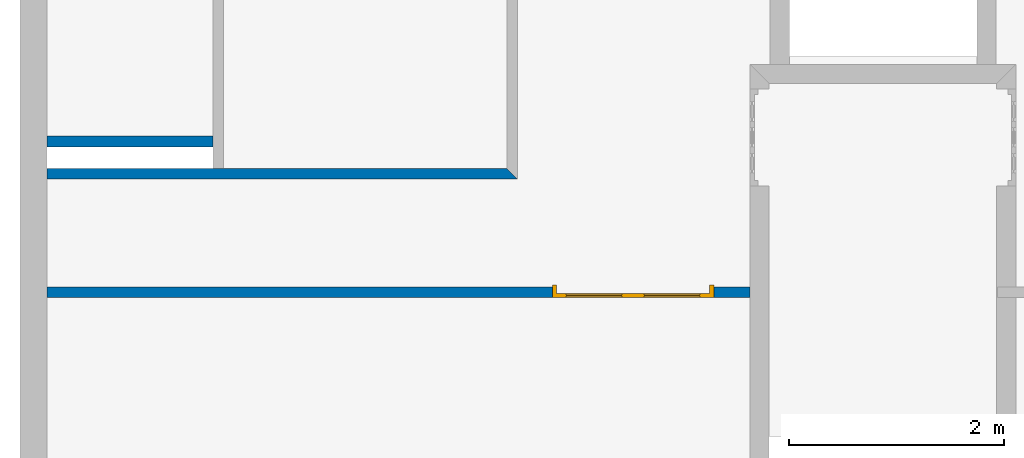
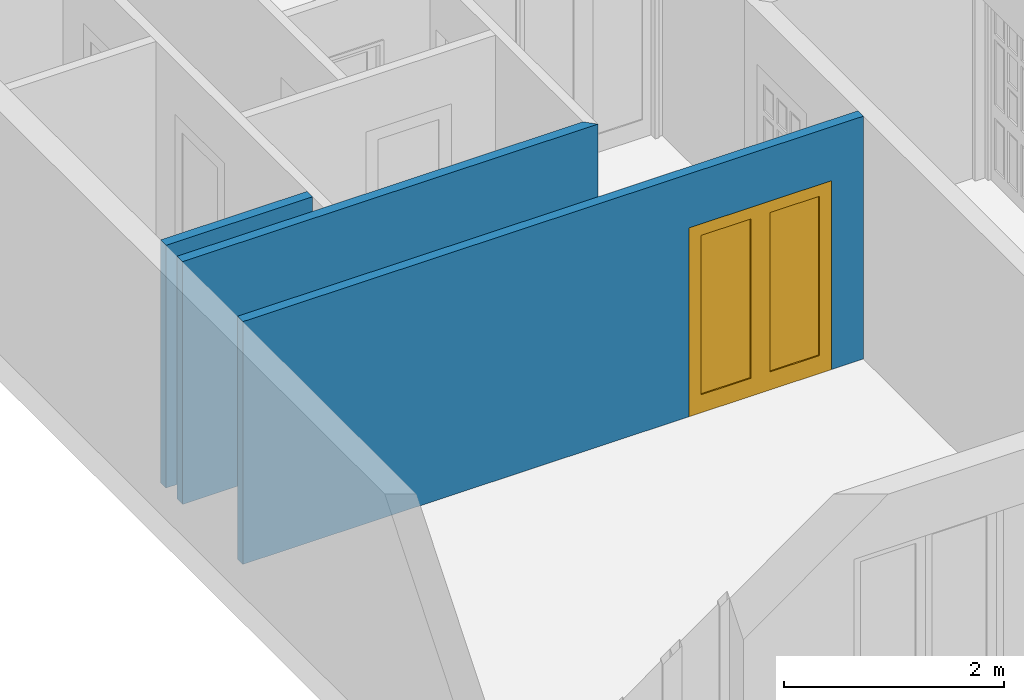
# One storey, part 4 of 11: 3 walls, 1 door, 1 opening.
"""IFC2X3 building model written with IfcOpenShell, lengths in metres."""

from ifc_helpers import new_model, entity, si_unit, converted_unit, direction, frame, frame_2d, origin_with_axes, place, context, project, spatial, polyline, rectangle, outline, extrude, faceted_brep, source, transform, mapped, material, layer, layer_set, layer_usage, type_object, element, fill, save


model = new_model("IFC2X3")

# Units and contexts
context_of_model = context(None, 3, precision=1e-05, world=origin_with_axes(), true_north=direction((6.123234e-17, 1.0)))
plan_context = context("Plan", 3, precision=1e-05, world=origin_with_axes(), true_north=direction((6.123234e-17, 1.0)))
model_context = context("Model", 3, precision=1e-05, world=origin_with_axes(), true_north=direction((6.123234e-17, 1.0)))
ifc_project = project(units=[si_unit("LENGTHUNIT", "METRE"), si_unit("AREAUNIT", "SQUARE_METRE"), si_unit("VOLUMEUNIT", "CUBIC_METRE"), converted_unit("PLANEANGLEUNIT", "DEGREE", entity("IfcPlaneAngleMeasure", 0.017453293), si_unit("PLANEANGLEUNIT", "RADIAN"), dimensions=[0, 0, 0, 0, 0, 0, 0]), si_unit("SOLIDANGLEUNIT", "STERADIAN"), si_unit("MASSUNIT", "GRAM"), si_unit("TIMEUNIT", "SECOND"), si_unit("THERMODYNAMICTEMPERATUREUNIT", "DEGREE_CELSIUS"), si_unit("LUMINOUSINTENSITYUNIT", "LUMEN")], contexts=[context_of_model, plan_context, model_context])

# Site, building, storey
site_placement = place(None, origin_with_axes())
site = spatial("IfcSite", under=ifc_project, at=site_placement, Name="Por defecto Sitio", CompositionType="ELEMENT")
building_placement = place(site_placement, origin_with_axes())
building = spatial("IfcBuilding", under=site, at=building_placement, Name="Por defecto Edificio", CompositionType="ELEMENT")
storey_placement = place(building_placement, frame((0.0, 0.0, 13.2), z_axis=(0.0, 0.0, 1.0), x_axis=(1.0, 0.0, 0.0)))
storey = spatial("IfcBuildingStorey", under=building, at=storey_placement, Name="Cuarta", CompositionType="ELEMENT", Elevation=13.2)

# Walls
ifc_material = material(Name="Ladrillo común")
ifc_layer = layer(ifc_material, 0.1, ventilated="UNKNOWN")
ifc_layer_set = layer_set([ifc_layer], Name="Ladrillo común")
ifc_layer_usage_1 = layer_usage(ifc_layer_set, "AXIS2", "POSITIVE", 0.0)
wall_type = type_object("IfcWallType", Name="Ladrillo común", PredefinedType="NOTDEFINED")
wall_1_placement = place(storey_placement, frame((1.7901975, 6.8112143, 0.0), z_axis=(0.0, 0.0, 1.0), x_axis=(-1.0, -2.919164e-05, 0.0)))
element("IfcWallStandardCase", 1, at=wall_1_placement, inside=storey, type_object=wall_type, material=ifc_layer_usage_1, Name="Muro-021", context=context_of_model, shape_type="SweptSolid", body=[
    extrude(outline(polyline([(-6.6233584e-06, 0.0), (1.5404075, -8.8817842e-16), (1.5404073, 0.1), (-4.5792175e-06, 0.1), (-6.6233584e-06, 0.0)])), origin_with_axes(), (0.0, 0.0, 1.0), 2.7),
])
ifc_layer_usage_2 = layer_usage(ifc_layer_set, "AXIS2", "POSITIVE", 0.0)
wall_2_placement = place(storey_placement, frame((4.52, 6.5112172, 0.0), z_axis=(0.0, 0.0, 1.0), x_axis=(-1.0, -3.0822116e-05, 0.0)))
element("IfcWallStandardCase", 2, at=wall_2_placement, inside=storey, type_object=wall_type, material=ifc_layer_usage_2, Name="Muro-020", context=context_of_model, shape_type="SweptSolid", body=[
    extrude(outline(polyline([(0.0, 0.0), (4.2702007, 0.0), (4.2702007, 0.1), (-0.099998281, 0.1), (0.0, 0.0)])), origin_with_axes(), (0.0, 0.0, 1.0), 2.7),
])

# Wall, opening, door
ifc_layer_usage_3 = layer_usage(ifc_layer_set, "AXIS2", "POSITIVE", 0.0)
wall_3_placement = place(storey_placement, frame((6.9566603, 5.4110174, 0.0), z_axis=(0.0, 0.0, 1.0), x_axis=(-1.0, 0.0, 0.0)))
wall_3 = element("IfcWallStandardCase", 3, at=wall_3_placement, inside=storey, type_object=wall_type, material=ifc_layer_usage_3, Name="Muro-019", context=context_of_model, shape_type="SweptSolid", body=[
    extrude(outline(polyline([(0.18, 0.0), (6.7068271, 0.0), (6.706824, 0.1), (0.18, 0.1), (0.18, 0.0)])), origin_with_axes(), (0.0, 0.0, 1.0), 2.7),
])
opening_placement = place(wall_3_placement, frame((1.2641603, 0.0, 0.0), z_axis=(0.0, 0.0, 1.0), x_axis=(1.0, 0.0, 0.0)))
opening = element("IfcOpeningElement", 4, at=opening_placement, cuts=wall_3, ObjectType="Opening", context=model_context, shape_type="SweptSolid", body=[
    extrude(rectangle(XDim=1.5, YDim=2.1, at=frame_2d((0.0, 1.05), x_axis=(-1.0, 0.0))), frame((0.0, 0.0, 0.0), z_axis=(0.0, 1.0, 0.0), x_axis=(-1.0, 0.0, 0.0)), (0.0, 0.0, 1.0), 0.1),
])
door_style = type_object("IfcDoorStyle", Name="P2 12", ConstructionType="NOTDEFINED", OperationType="DOUBLE_DOOR_SINGLE_SWING", ParameterTakesPrecedence=False, Sizeable=False)
shared_shape = source(origin_with_axes(), model_context, "Body", "Brep", [
    faceted_brep([(0.04, 0.075, 0.0), (0.04, 0.075, 2.06), (0.04, 0.0, 2.06), (0.04, 0.0, 0.0), (0.028, 0.075, 2.06), (0.028, 0.075, 0.0), (0.028, 0.115, 2.06), (0.0, 0.115, 2.06), (0.0, 0.0, 2.06), (0.0, 0.0, 0.0), (0.0, 0.115, 0.0), (0.028, 0.115, 0.0)], [[[0, 1, 2, 3]], [[4, 1, 0, 5]], [[4, 6, 7, 8, 2, 1]], [[9, 3, 2, 8]], [[5, 0, 3, 9, 10, 11]], [[6, 4, 5, 11]], [[6, 11, 10, 7]], [[8, 7, 10, 9]]]),
    faceted_brep([(1.472, 0.075, 2.06), (1.46, 0.075, 2.06), (1.46, 0.0, 2.06), (1.5, 0.0, 2.06), (1.5, 0.115, 2.06), (1.472, 0.115, 2.06), (1.472, 0.075, 0.0), (1.46, 0.075, 0.0), (1.46, 0.0, 0.0), (1.5, 0.0, 0.0), (1.5, 0.115, 0.0), (1.472, 0.115, 0.0)], [[[0, 1, 2, 3, 4, 5]], [[1, 0, 6, 7]], [[1, 7, 8, 2]], [[8, 9, 3, 2]], [[9, 10, 4, 3]], [[11, 5, 4, 10]], [[0, 5, 11, 6]], [[6, 11, 10, 9, 8, 7]]]),
    faceted_brep([(0.028, 0.115, 2.072), (0.028, 0.115, 2.06), (0.0, 0.115, 2.06), (0.0, 0.115, 2.1), (1.5, 0.115, 2.1), (1.5, 0.115, 2.06), (1.472, 0.115, 2.06), (1.472, 0.115, 2.072), (0.028, 0.075, 2.072), (0.028, 0.075, 2.06), (0.04, 0.075, 2.06), (0.04, 0.0, 2.06), (0.0, 0.0, 2.06), (0.0, 0.0, 2.1), (1.5, 0.0, 2.1), (1.5, 0.0, 2.06), (1.472, 0.075, 2.06), (1.46, 0.0, 2.06), (1.46, 0.075, 2.06), (1.472, 0.075, 2.072)], [[[0, 1, 2, 3, 4, 5, 6, 7]], [[1, 0, 8, 9]], [[9, 10, 11, 12, 2, 1]], [[13, 3, 2, 12]], [[14, 4, 3, 13]], [[15, 5, 4, 14]], [[16, 6, 5, 15, 17, 18]], [[7, 6, 16, 19]], [[0, 7, 19, 8]], [[16, 18, 10, 9, 8, 19]], [[10, 18, 17, 11]], [[14, 13, 12, 11, 17, 15]]]),
    faceted_brep([(1.472, 0.115, 0.2), (1.472, 0.075, 0.2), (1.372, 0.075, 0.2), (1.372, 0.115, 0.2), (1.472, 0.115, 1.972), (1.472, 0.075, 1.972), (1.372, 0.075, 1.972), (1.372, 0.115, 1.972)], [[[0, 1, 2, 3]], [[4, 5, 1, 0]], [[1, 5, 6, 2]], [[3, 2, 6, 7]], [[0, 3, 7, 4]], [[7, 6, 5, 4]]]),
    faceted_brep([(0.751, 0.115, 0.2), (0.751, 0.075, 0.2), (0.751, 0.075, 1.972), (0.751, 0.115, 1.972), (0.851, 0.115, 0.2), (0.851, 0.075, 0.2), (0.851, 0.075, 1.972), (0.851, 0.115, 1.972)], [[[0, 1, 2, 3]], [[4, 5, 1, 0]], [[1, 5, 6, 2]], [[3, 2, 6, 7]], [[0, 3, 7, 4]], [[7, 6, 5, 4]]]),
    faceted_brep([(1.472, 0.115, 0.0), (1.472, 0.075, 0.0), (0.751, 0.075, 0.0), (0.751, 0.115, 0.0), (1.472, 0.115, 0.2), (1.472, 0.075, 0.2), (1.372, 0.075, 0.2), (0.851, 0.075, 0.2), (0.751, 0.075, 0.2), (0.751, 0.115, 0.2), (0.851, 0.115, 0.2), (1.372, 0.115, 0.2)], [[[0, 1, 2, 3]], [[4, 5, 1, 0]], [[1, 5, 6, 7, 8, 2]], [[3, 2, 8, 9]], [[0, 3, 9, 10, 11, 4]], [[11, 6, 5, 4]], [[10, 7, 6, 11]], [[9, 8, 7, 10]]]),
    faceted_brep([(1.472, 0.115, 2.072), (1.472, 0.075, 2.072), (1.472, 0.075, 1.972), (1.472, 0.115, 1.972), (0.751, 0.115, 2.072), (0.751, 0.075, 2.072), (0.751, 0.075, 1.972), (0.851, 0.075, 1.972), (1.372, 0.075, 1.972), (1.372, 0.115, 1.972), (0.851, 0.115, 1.972), (0.751, 0.115, 1.972)], [[[0, 1, 2, 3]], [[4, 5, 1, 0]], [[1, 5, 6, 7, 8, 2]], [[3, 2, 8, 9]], [[0, 3, 9, 10, 11, 4]], [[11, 6, 5, 4]], [[10, 7, 6, 11]], [[9, 8, 7, 10]]]),
    faceted_brep([(1.372, 0.101, 0.2), (1.372, 0.089, 0.2), (0.851, 0.089, 0.2), (0.851, 0.101, 0.2), (1.372, 0.101, 1.972), (1.372, 0.089, 1.972), (0.851, 0.089, 1.972), (0.851, 0.101, 1.972)], [[[0, 1, 2, 3]], [[4, 5, 1, 0]], [[1, 5, 6, 2]], [[3, 2, 6, 7]], [[0, 3, 7, 4]], [[7, 6, 5, 4]]]),
    faceted_brep([(0.028, 0.115, 0.2), (0.128, 0.115, 0.2), (0.128, 0.075, 0.2), (0.028, 0.075, 0.2), (0.028, 0.115, 1.972), (0.128, 0.115, 1.972), (0.128, 0.075, 1.972), (0.028, 0.075, 1.972)], [[[0, 1, 2, 3]], [[0, 4, 5, 1]], [[1, 5, 6, 2]], [[3, 2, 6, 7]], [[4, 0, 3, 7]], [[5, 4, 7, 6]]]),
    faceted_brep([(0.749, 0.115, 0.2), (0.749, 0.115, 1.972), (0.749, 0.075, 1.972), (0.749, 0.075, 0.2), (0.649, 0.115, 0.2), (0.649, 0.115, 1.972), (0.649, 0.075, 1.972), (0.649, 0.075, 0.2)], [[[0, 1, 2, 3]], [[0, 4, 5, 1]], [[1, 5, 6, 2]], [[3, 2, 6, 7]], [[4, 0, 3, 7]], [[5, 4, 7, 6]]]),
    faceted_brep([(0.028, 0.115, 0.0), (0.749, 0.115, 0.0), (0.749, 0.075, 0.0), (0.028, 0.075, 0.0), (0.028, 0.115, 0.2), (0.128, 0.115, 0.2), (0.649, 0.115, 0.2), (0.749, 0.115, 0.2), (0.749, 0.075, 0.2), (0.649, 0.075, 0.2), (0.128, 0.075, 0.2), (0.028, 0.075, 0.2)], [[[0, 1, 2, 3]], [[0, 4, 5, 6, 7, 1]], [[1, 7, 8, 2]], [[3, 2, 8, 9, 10, 11]], [[4, 0, 3, 11]], [[5, 4, 11, 10]], [[6, 5, 10, 9]], [[7, 6, 9, 8]]]),
    faceted_brep([(0.028, 0.115, 2.072), (0.028, 0.115, 1.972), (0.028, 0.075, 1.972), (0.028, 0.075, 2.072), (0.749, 0.115, 2.072), (0.749, 0.115, 1.972), (0.649, 0.115, 1.972), (0.128, 0.115, 1.972), (0.128, 0.075, 1.972), (0.649, 0.075, 1.972), (0.749, 0.075, 1.972), (0.749, 0.075, 2.072)], [[[0, 1, 2, 3]], [[0, 4, 5, 6, 7, 1]], [[1, 7, 8, 2]], [[3, 2, 8, 9, 10, 11]], [[4, 0, 3, 11]], [[5, 4, 11, 10]], [[6, 5, 10, 9]], [[7, 6, 9, 8]]]),
    faceted_brep([(0.128, 0.101, 0.2), (0.649, 0.101, 0.2), (0.649, 0.089, 0.2), (0.128, 0.089, 0.2), (0.128, 0.101, 1.972), (0.649, 0.101, 1.972), (0.649, 0.089, 1.972), (0.128, 0.089, 1.972)], [[[0, 1, 2, 3]], [[0, 4, 5, 1]], [[1, 5, 6, 2]], [[3, 2, 6, 7]], [[4, 0, 3, 7]], [[5, 4, 7, 6]]]),
])
door_placement = place(opening_placement, frame((-0.75, -0.015, 0.0), z_axis=(0.0, 0.0, 1.0), x_axis=(1.0, 0.0, 0.0)))
door = element("IfcDoor", 5, at=door_placement, inside=storey, type_object=door_style, Name="P27", OverallHeight=2.1, OverallWidth=1.5, context=model_context, shape_type="MappedRepresentation", body=[
    mapped(shared_shape, transform((0.0, 0.0, 0.0), scale=1.0)),
])
fill(opening, door)

save(model, "model.ifc")
